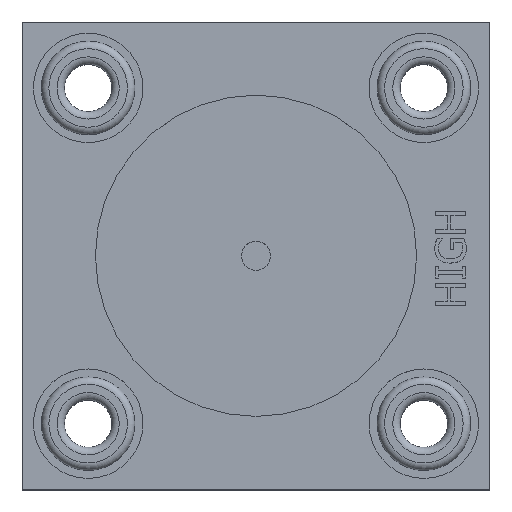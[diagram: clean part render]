
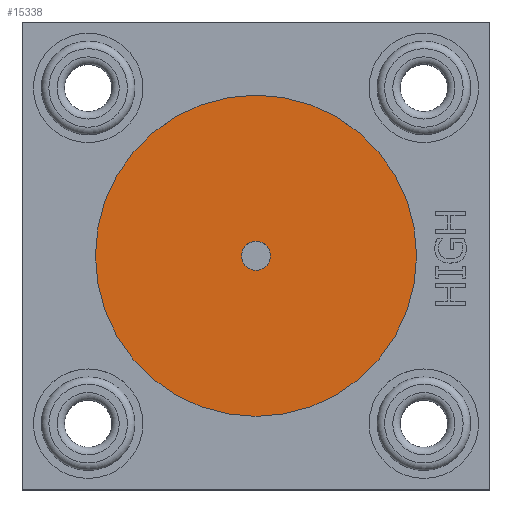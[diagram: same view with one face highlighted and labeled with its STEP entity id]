
A CAD part, top view. The second image highlights one B-rep face of the part: STEP entity #15338.
In plain terms, the highlighted planar face has unit normal (0, 0, 1).
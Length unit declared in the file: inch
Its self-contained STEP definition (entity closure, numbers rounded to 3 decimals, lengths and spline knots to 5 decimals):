
#15296=CARTESIAN_POINT('',(0.3435,0.,-0.005));
#15297=VERTEX_POINT('',#15296);
#15298=CARTESIAN_POINT('',(0.0,0.0,-0.005));
#15299=DIRECTION('',(0.0,0.0,1.0));
#15300=DIRECTION('',(-1.0,0.0,0.0));
#15301=AXIS2_PLACEMENT_3D('',#15298,#15299,#15300);
#15302=CIRCLE('',#15301,0.3435);
#15303=EDGE_CURVE('',#15297,#15297,#15302,.T.);
#15319=CARTESIAN_POINT('',(0.0,0.0,-0.005));
#15320=DIRECTION('',(0.0,0.0,-1.0));
#15321=DIRECTION('',(-1.0,0.0,0.0));
#15322=AXIS2_PLACEMENT_3D('',#15319,#15320,#15321);
#15323=PLANE('',#15322);
#15324=ORIENTED_EDGE('',*,*,#15303,.T.);
#15325=EDGE_LOOP('',(#15324));
#15326=FACE_OUTER_BOUND('',#15325,.T.);
#15327=CARTESIAN_POINT('',(0.031,0.,-0.005));
#15328=VERTEX_POINT('',#15327);
#15329=CARTESIAN_POINT('',(0.0,0.0,-0.005));
#15330=DIRECTION('',(0.0,0.0,1.0));
#15331=DIRECTION('',(-1.0,0.0,0.0));
#15332=AXIS2_PLACEMENT_3D('',#15329,#15330,#15331);
#15333=CIRCLE('',#15332,0.031);
#15334=EDGE_CURVE('',#15328,#15328,#15333,.T.);
#15335=ORIENTED_EDGE('',*,*,#15334,.F.);
#15336=EDGE_LOOP('',(#15335));
#15337=FACE_BOUND('',#15336,.T.);
#15338=ADVANCED_FACE('',(#15326,#15337),#15323,.F.);
